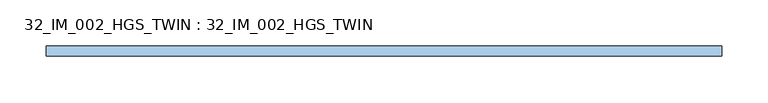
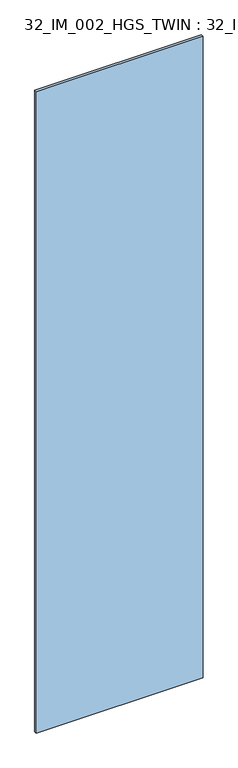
"""IFC4 building model written with IfcOpenShell, lengths in millimetres: window geometry, 32_IM_002_HGS_TWIN : 32_IM_002_HGS_TWIN."""

from ifc_helpers import new_model, si_unit, origin, origin_with_axes, place, context, project, spatial, polyline, outline, extrude, source, transform, mapped, element, save


def window_32_im_002_hgs_twin_32_im_002_hgs_twin_a99c4260(model_context):
    return source(origin(), model_context, "Body", "SweptSolid", [
        extrude(outline(polyline([(364.0, -5.4), (-364.0, -5.4), (-364.0, 5.4), (364.0, 5.4), (364.0, -5.4)])), origin_with_axes(), (0.0, 0.0, 1.0), 2956.0),
    ])


if __name__ == "__main__":
    model = new_model("IFC4")
    model_context = context("Model", 3, world=origin())
    ifc_project = project(units=[si_unit("LENGTHUNIT", "METRE", prefix="MILLI")], contexts=[model_context])
    site = spatial("IfcSite", under=ifc_project)
    building = spatial("IfcBuilding", under=site)
    placement = place(None, origin())
    window_32_im_002_hgs_twin_32_im_002_hgs_twin_shape = window_32_im_002_hgs_twin_32_im_002_hgs_twin_a99c4260(model_context)
    element("IfcWindow", 1, ObjectType="32_IM_002_HGS_TWIN : 32_IM_002_HGS_TWIN", at=placement, inside=building, context=model_context, shape_type="MappedRepresentation", body=[
        mapped(window_32_im_002_hgs_twin_32_im_002_hgs_twin_shape, transform((0.0, 0.0, 0.0), x_axis=(1.0, 0.0, 0.0), y_axis=(0.0, 1.0, 0.0), z_axis=(0.0, 0.0, 1.0))),
    ])
    save(model, "model.ifc")
